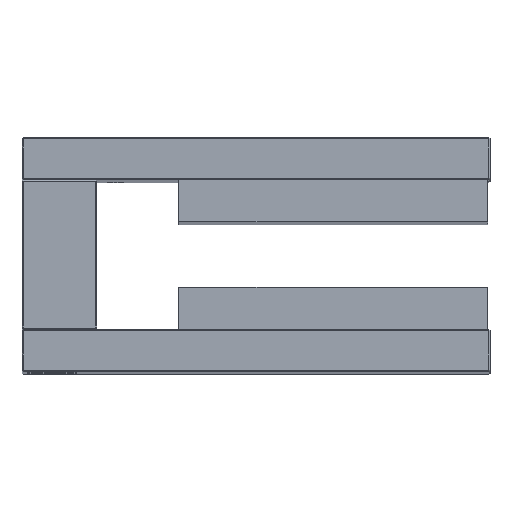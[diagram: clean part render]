
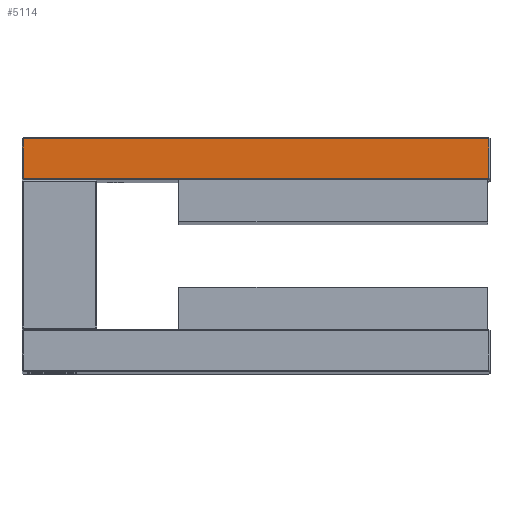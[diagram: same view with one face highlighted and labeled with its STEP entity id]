
A CAD part, top view. The second image highlights one B-rep face of the part: STEP entity #5114.
In plain terms, the highlighted planar face has unit normal (0, 0, 1).
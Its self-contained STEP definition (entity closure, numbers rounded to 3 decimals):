
#238 = EDGE_CURVE ( 'Defeatured_0_21+Defeatured_0_4+Defeatured_0_12+Defeatured_0_1', #10558, #5624, #9387, .T. ) ;
#501 = CARTESIAN_POINT ( 'NONE',  ( -7.927, 23.48, 174.788 ) ) ;
#758 = LINE ( 'NONE', #5361, #13843 ) ;
#1422 = VERTEX_POINT ( 'NONE', #12221 ) ;
#1451 = EDGE_CURVE ( 'Defeatured_0_21+Defeatured_0_12+Defeatured_0_7+Defeatured_0_4', #1422, #10558, #3203, .T. ) ;
#1512 = CARTESIAN_POINT ( 'NONE',  ( 91.473, 32.18, 174.788 ) ) ;
#1596 = AXIS2_PLACEMENT_3D ( 'NONE', #18684, #13860, #7945 ) ;
#2220 = ORIENTED_EDGE ( 'NONE', *, *, #1451, .T. ) ;
#2607 = ORIENTED_EDGE ( 'NONE', *, *, #238, .T. ) ;
#3203 = LINE ( 'NONE', #17239, #9720 ) ;
#5114 = ADVANCED_FACE ( 'Defeatured_0_21', ( #10952 ), #15564, .T. ) ;
#5361 = CARTESIAN_POINT ( 'NONE',  ( 91.773, 23.78, 174.788 ) ) ;
#5624 = VERTEX_POINT ( 'NONE', #19156 ) ;
#7913 = EDGE_LOOP ( 'NONE', ( #16508, #18467, #2220, #2607 ) ) ;
#7945 = DIRECTION ( 'NONE',  ( 0., -1., 0. ) ) ;
#8215 = VECTOR ( 'NONE', #15501, 1000. ) ;
#9387 = LINE ( 'NONE', #17311, #8215 ) ;
#9720 = VECTOR ( 'NONE', #12318, 1000. ) ;
#10558 = VERTEX_POINT ( 'NONE', #1512 ) ;
#10952 = FACE_OUTER_BOUND ( 'NONE', #7913, .T. ) ;
#11224 = DIRECTION ( 'NONE',  ( 0., -1., 0. ) ) ;
#11587 = DIRECTION ( 'NONE',  ( 1., 0., 0. ) ) ;
#11763 = CARTESIAN_POINT ( 'NONE',  ( -7.927, 23.78, 174.788 ) ) ;
#12221 = CARTESIAN_POINT ( 'NONE',  ( 91.473, 23.78, 174.788 ) ) ;
#12318 = DIRECTION ( 'NONE',  ( 0., 1., 0. ) ) ;
#13843 = VECTOR ( 'NONE', #11587, 1000. ) ;
#13860 = DIRECTION ( 'NONE',  ( 0., 0., 1. ) ) ;
#14231 = LINE ( 'NONE', #501, #16146 ) ;
#14965 = VERTEX_POINT ( 'NONE', #11763 ) ;
#15501 = DIRECTION ( 'NONE',  ( -1., 0., 0. ) ) ;
#15564 = PLANE ( 'NONE',  #1596 ) ;
#16146 = VECTOR ( 'NONE', #11224, 1000. ) ;
#16508 = ORIENTED_EDGE ( 'NONE', *, *, #18121, .T. ) ;
#17239 = CARTESIAN_POINT ( 'NONE',  ( 91.473, 32.48, 174.788 ) ) ;
#17305 = EDGE_CURVE ( 'Defeatured_0_21+Defeatured_0_7+Defeatured_0_1+Defeatured_0_12', #14965, #1422, #758, .T. ) ;
#17311 = CARTESIAN_POINT ( 'NONE',  ( -8.227, 32.18, 174.788 ) ) ;
#18121 = EDGE_CURVE ( 'Defeatured_0_21+Defeatured_0_1+Defeatured_0_4+Defeatured_0_7', #5624, #14965, #14231, .T. ) ;
#18467 = ORIENTED_EDGE ( 'NONE', *, *, #17305, .T. ) ;
#18684 = CARTESIAN_POINT ( 'NONE',  ( -8.227, 23.48, 174.788 ) ) ;
#19156 = CARTESIAN_POINT ( 'NONE',  ( -7.927, 32.18, 174.788 ) ) ;
